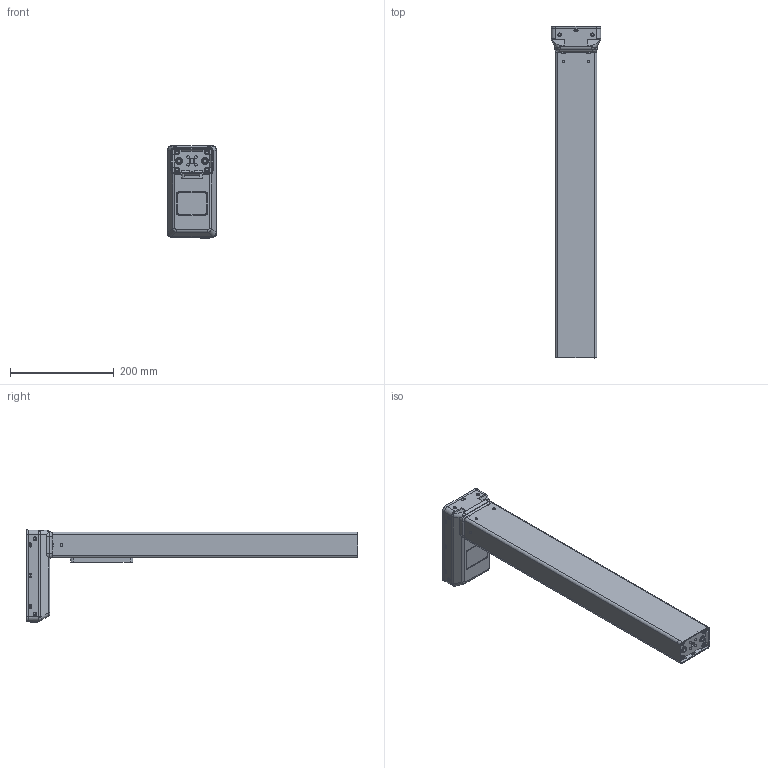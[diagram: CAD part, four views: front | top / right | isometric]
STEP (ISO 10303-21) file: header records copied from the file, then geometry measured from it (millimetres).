
FILE_DESCRIPTION((''),'2;1');
FILE_NAME('DL5_WITH_BRACKET1_ASM','2021-07-14T07:49:38',('mq'),(''),'CREO PARAMETRIC BY PTC INC, 2020454','CREO PARAMETRIC BY PTC INC, 2020454','');
FILE_SCHEMA(('AUTOMOTIVE_DESIGN { 1 0 10303 214 1 1 1 1 }'));
Length unit declared in the file: millimetre
Products named in the file (3): DL5_OP_NEW1; STANDART_MOTORHUS1_DL51; DL5_WITH_BRACKET1_ASM
Assembly tree (2 placements, depth 2):
  DL5_WITH_BRACKET1_ASM
    DL5_OP_NEW1
    STANDART_MOTORHUS1_DL51
Bounding box: 96.5 x 641 x 178.6 mm (x, y, z)
Volume: 3115178.6 mm3; surface area: 223333.5 mm2
Topology: 2 solids, 2 shells, 952 faces, 2535 edges, 1618 vertices
Faces by surface type: plane 441, cylinder 369, torus 84, bspline 36, sphere 14, cone 8
Entity records: 38815 total; most frequent: CARTESIAN_POINT 8374, ORIENTED_EDGE 5046, DIRECTION 4911, EDGE_CURVE 2523, AXIS2_PLACEMENT_3D 1742, VERTEX_POINT 1618, VECTOR 1427, LINE 1427
